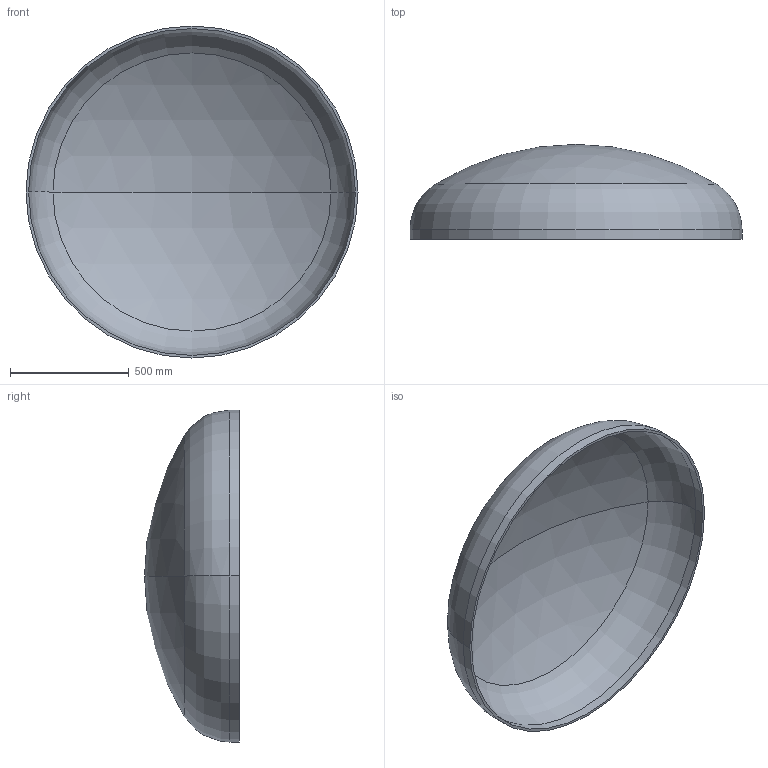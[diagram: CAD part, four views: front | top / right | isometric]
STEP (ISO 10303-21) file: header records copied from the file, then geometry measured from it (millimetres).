
FILE_DESCRIPTION (( 'STEP AP203' ), '1' );
FILE_NAME ('DIN 28013 Korbbogenform_-_Boden DIN 28013 - 1400 x 40 - I - s=11.step', '2016-07-01T10:07:42', ( '' ), ( '' ), 'SwSTEP 2.0', 'SolidWorks 2013', '' );
FILE_SCHEMA (( 'CONFIG_CONTROL_DESIGN' ));
Length unit declared in the file: millimetre
Products named in the file (1): DIN 28013 Korbbogenform_-_Boden DIN 28013 - 1400 x 40 - I - s=11
Bounding box: 1400 x 400.06 x 1400 mm (x, y, z)
Volume: 25117361.7 mm3; surface area: 4615045.1 mm2
Topology: 1 solids, 1 shells, 13 faces, 24 edges, 14 vertices
Faces by surface type: torus 4, cylinder 4, sphere 4, plane 1
Entity records: 407 total; most frequent: DIRECTION 72, CARTESIAN_POINT 52, ORIENTED_EDGE 48, AXIS2_PLACEMENT_3D 34, EDGE_CURVE 24, CIRCLE 20, VERTEX_POINT 14, EDGE_LOOP 14
